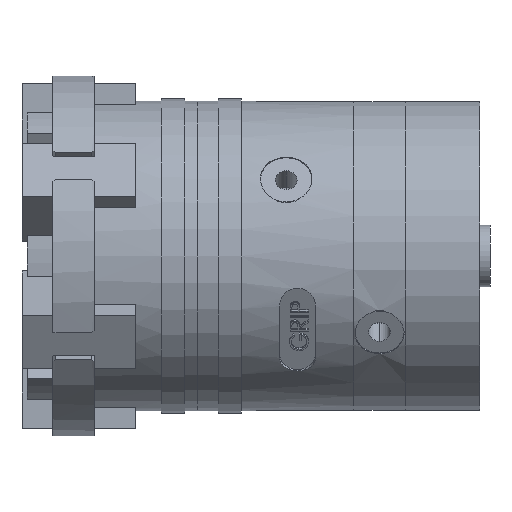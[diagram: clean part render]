
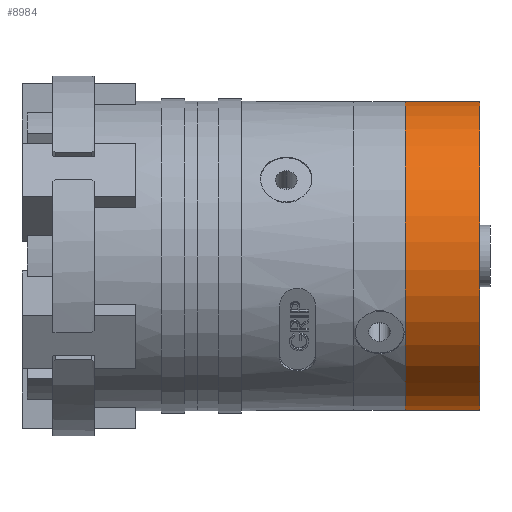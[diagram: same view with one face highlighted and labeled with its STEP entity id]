
A CAD part, left-side view. The second image highlights one B-rep face of the part: STEP entity #8984.
In plain terms, the highlighted cylindrical face has radius 30 mm (diameter 60 mm), a partial arc.
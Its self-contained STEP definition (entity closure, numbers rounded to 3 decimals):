
#93 = DIRECTION ( 'NONE',  ( 0., 1., 0. ) ) ;
#880 = AXIS2_PLACEMENT_3D ( 'NONE', #12964, #14195, #15409 ) ;
#1151 = AXIS2_PLACEMENT_3D ( 'NONE', #1816, #5230, #7805 ) ;
#1296 = VERTEX_POINT ( 'NONE', #14571 ) ;
#1816 = CARTESIAN_POINT ( 'NONE',  ( 0., -61.7, 0. ) ) ;
#2513 = VECTOR ( 'NONE', #93, 1000. ) ;
#3012 = DIRECTION ( 'NONE',  ( 0., -1., 0. ) ) ;
#4592 = LINE ( 'NONE', #14051, #7238 ) ;
#5230 = DIRECTION ( 'NONE',  ( 0., 1., 0. ) ) ;
#5445 = EDGE_CURVE ( 'NONE', #13792, #9057, #15032, .T. ) ;
#5504 = CARTESIAN_POINT ( 'NONE',  ( -2.5, -47.3, 29.896 ) ) ;
#5595 = VERTEX_POINT ( 'NONE', #11952 ) ;
#6364 = ORIENTED_EDGE ( 'NONE', *, *, #11773, .F. ) ;
#6427 = ORIENTED_EDGE ( 'NONE', *, *, #12133, .T. ) ;
#6820 = CARTESIAN_POINT ( 'NONE',  ( 0., -47.3, 0. ) ) ;
#6936 = FACE_OUTER_BOUND ( 'NONE', #12077, .T. ) ;
#7099 = CARTESIAN_POINT ( 'NONE',  ( -2.5, -47.3, -29.896 ) ) ;
#7238 = VECTOR ( 'NONE', #8085, 1000. ) ;
#7805 = DIRECTION ( 'NONE',  ( 0., 0., 1. ) ) ;
#7855 = LINE ( 'NONE', #8504, #2513 ) ;
#8085 = DIRECTION ( 'NONE',  ( 0., 1., 0. ) ) ;
#8504 = CARTESIAN_POINT ( 'NONE',  ( -2.5, -63.7, -29.896 ) ) ;
#8984 = ADVANCED_FACE ( 'NONE', ( #6936 ), #11910, .T. ) ;
#9057 = VERTEX_POINT ( 'NONE', #7099 ) ;
#11240 = ORIENTED_EDGE ( 'NONE', *, *, #11284, .F. ) ;
#11284 = EDGE_CURVE ( 'NONE', #1296, #9057, #7855, .T. ) ;
#11583 = DIRECTION ( 'NONE',  ( 0., 0., -1. ) ) ;
#11773 = EDGE_CURVE ( 'NONE', #5595, #1296, #14866, .T. ) ;
#11897 = AXIS2_PLACEMENT_3D ( 'NONE', #6820, #3012, #11583 ) ;
#11910 = CYLINDRICAL_SURFACE ( 'NONE', #1151, 30. ) ;
#11952 = CARTESIAN_POINT ( 'NONE',  ( -2.5, -61.7, 29.896 ) ) ;
#11963 = ORIENTED_EDGE ( 'NONE', *, *, #5445, .T. ) ;
#12077 = EDGE_LOOP ( 'NONE', ( #6364, #6427, #11963, #11240 ) ) ;
#12133 = EDGE_CURVE ( 'NONE', #5595, #13792, #4592, .T. ) ;
#12964 = CARTESIAN_POINT ( 'NONE',  ( 0., -61.7, 0. ) ) ;
#13792 = VERTEX_POINT ( 'NONE', #5504 ) ;
#14051 = CARTESIAN_POINT ( 'NONE',  ( -2.5, -63.7, 29.896 ) ) ;
#14195 = DIRECTION ( 'NONE',  ( 0., -1., 0. ) ) ;
#14571 = CARTESIAN_POINT ( 'NONE',  ( -2.5, -61.7, -29.896 ) ) ;
#14866 = CIRCLE ( 'NONE', #880, 30. ) ;
#15032 = CIRCLE ( 'NONE', #11897, 30. ) ;
#15409 = DIRECTION ( 'NONE',  ( 0., 0., -1. ) ) ;
